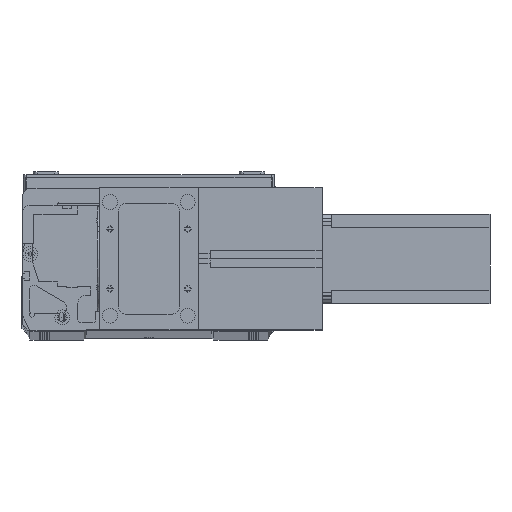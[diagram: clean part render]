
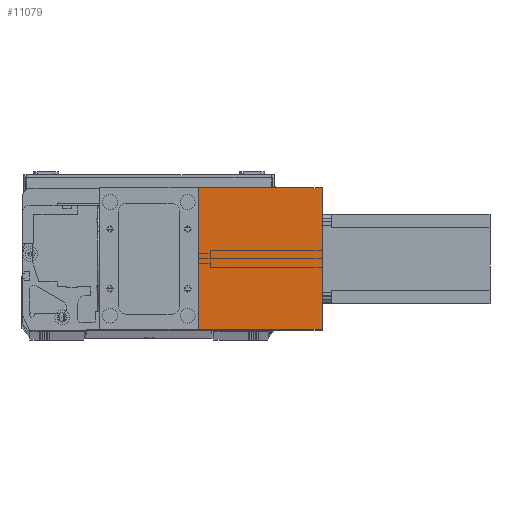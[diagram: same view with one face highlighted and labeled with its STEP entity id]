
A CAD part, top view. The second image highlights one B-rep face of the part: STEP entity #11079.
In plain terms, the highlighted planar face has unit normal (0, 0, 1) as drawn and (1, 0, 0) by its records, which use the part's own axes.
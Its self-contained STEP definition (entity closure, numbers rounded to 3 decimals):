
#1379 = FACE_OUTER_BOUND ( 'NONE', #20934, .T. ) ;
#1480 = LINE ( 'NONE', #22110, #26922 ) ;
#1495 = ORIENTED_EDGE ( 'NONE', *, *, #4911, .T. ) ;
#1886 = DIRECTION ( 'NONE',  ( 0., 0., -1. ) ) ;
#2417 = EDGE_CURVE ( 'NONE', #4429, #28316, #30492, .T. ) ;
#2797 = DIRECTION ( 'NONE',  ( 0., 0., -1. ) ) ;
#2962 = EDGE_CURVE ( 'NONE', #28316, #8954, #3668, .T. ) ;
#3076 = CARTESIAN_POINT ( 'NONE',  ( 82., 95., 83. ) ) ;
#3238 = CARTESIAN_POINT ( 'NONE',  ( 82., 95., 0. ) ) ;
#3668 = LINE ( 'NONE', #4302, #16109 ) ;
#4302 = CARTESIAN_POINT ( 'NONE',  ( 82., 95., 83. ) ) ;
#4429 = VERTEX_POINT ( 'NONE', #30482 ) ;
#4911 = EDGE_CURVE ( 'NONE', #22048, #8954, #15978, .T. ) ;
#6125 = CARTESIAN_POINT ( 'NONE',  ( 82., 0., 0. ) ) ;
#7424 = DIRECTION ( 'NONE',  ( 0., 1., 0. ) ) ;
#8635 = VECTOR ( 'NONE', #18160, 1000. ) ;
#8954 = VERTEX_POINT ( 'NONE', #3238 ) ;
#9169 = EDGE_CURVE ( 'NONE', #4429, #22048, #1480, .T. ) ;
#10568 = AXIS2_PLACEMENT_3D ( 'NONE', #29939, #28434, #28255 ) ;
#11079 = ADVANCED_FACE ( 'NONE', ( #1379 ), #28687, .F. ) ;
#13514 = ORIENTED_EDGE ( 'NONE', *, *, #9169, .T. ) ;
#15978 = LINE ( 'NONE', #18167, #8635 ) ;
#16109 = VECTOR ( 'NONE', #2797, 1000. ) ;
#18160 = DIRECTION ( 'NONE',  ( 0., 1., 0. ) ) ;
#18167 = CARTESIAN_POINT ( 'NONE',  ( 82., 0., 0. ) ) ;
#19412 = ORIENTED_EDGE ( 'NONE', *, *, #2962, .F. ) ;
#20934 = EDGE_LOOP ( 'NONE', ( #1495, #19412, #22061, #13514 ) ) ;
#22048 = VERTEX_POINT ( 'NONE', #6125 ) ;
#22061 = ORIENTED_EDGE ( 'NONE', *, *, #2417, .F. ) ;
#22110 = CARTESIAN_POINT ( 'NONE',  ( 82., 0., 83. ) ) ;
#26922 = VECTOR ( 'NONE', #1886, 1000. ) ;
#28255 = DIRECTION ( 'NONE',  ( 0., 0., 1. ) ) ;
#28316 = VERTEX_POINT ( 'NONE', #3076 ) ;
#28434 = DIRECTION ( 'NONE',  ( -1., 0., 0. ) ) ;
#28687 = PLANE ( 'NONE',  #10568 ) ;
#28705 = CARTESIAN_POINT ( 'NONE',  ( 82., 0., 83. ) ) ;
#29740 = VECTOR ( 'NONE', #7424, 1000. ) ;
#29939 = CARTESIAN_POINT ( 'NONE',  ( 82., 0., 83. ) ) ;
#30482 = CARTESIAN_POINT ( 'NONE',  ( 82., 0., 83. ) ) ;
#30492 = LINE ( 'NONE', #28705, #29740 ) ;
